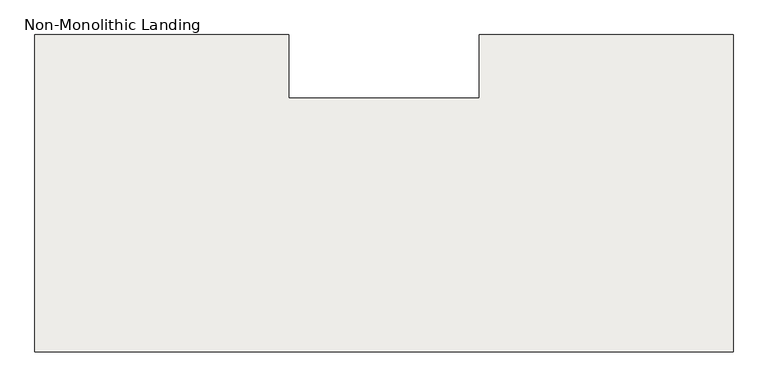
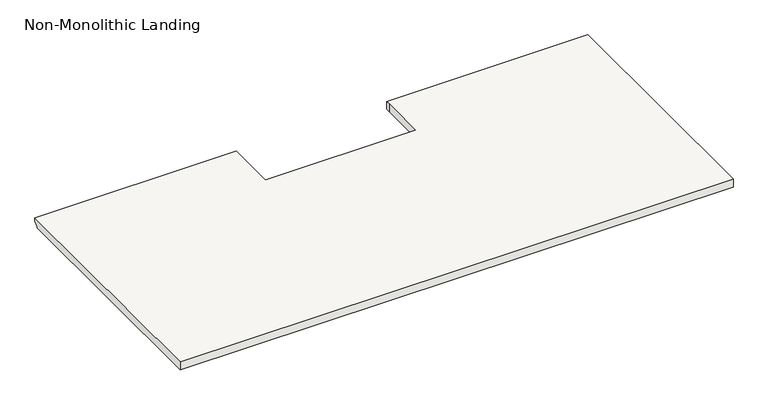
"""IFC4 building model written with IfcOpenShell, lengths in millimetres: slab geometry, Non-Monolithic Landing."""

from ifc_helpers import new_model, si_unit, origin, place, context, project, spatial, faceted_brep, source, transform, mapped, element, save


def non_monolithic_landing_28c1c1f5(model_context):
    return source(origin(), model_context, "Body", "Brep", [
        faceted_brep([(28280.5816981, 20987.1332157, 1741.7142857), (31633.3816981, 20987.1332157, 1741.7142857), (31633.3816981, 22485.7332157, 1741.7142857), (31633.3816981, 22511.1332157, 1741.7142857), (30414.1816981, 22511.1332157, 1741.7142857), (30414.1816981, 22485.7332157, 1741.7142857), (30414.1816981, 22206.3332157, 1741.7142857), (29499.7816981, 22206.3332157, 1741.7142857), (29499.7816981, 22511.1332157, 1741.7142857), (28280.5816981, 22511.1332157, 1741.7142857), (28280.5816981, 22485.7332157, 1690.9142857), (29499.7816981, 22485.7332157, 1690.9142857), (29499.7816981, 22206.3332157, 1690.9142857), (30414.1816981, 22206.3332157, 1690.9142857), (30414.1816981, 22485.7332157, 1690.9142857), (30414.1816981, 22511.1332157, 1690.9142857), (31633.3816981, 22511.1332157, 1690.9142857), (31633.3816981, 22485.7332157, 1690.9142857), (31633.3816981, 20987.1332157, 1690.9142857), (28280.5816981, 20987.1332157, 1690.9142857), (29499.7816981, 22485.7332157, 1697.2642857), (29499.7816981, 22511.1332157, 1722.6642857), (28280.5816981, 22511.1332157, 1722.6642857), (28280.5816981, 22485.7332157, 1697.2642857)], [[[0, 1, 2, 3, 4, 5, 6, 7, 8, 9]], [[10, 11, 12, 13, 14, 15, 16, 17, 18, 19]], [[8, 7, 12, 11, 20, 21]], [[0, 9, 22, 23, 10, 19]], [[3, 2, 17, 16]], [[5, 4, 15, 14]], [[6, 5, 14, 13]], [[22, 9, 8, 21]], [[23, 22, 21, 20]], [[11, 10, 23, 20]], [[7, 6, 13, 12]], [[1, 0, 19, 18]], [[2, 1, 18, 17]], [[4, 3, 16, 15]]]),
    ])


if __name__ == "__main__":
    model = new_model("IFC4")
    model_context = context("Model", 3, world=origin())
    ifc_project = project(units=[si_unit("LENGTHUNIT", "METRE", prefix="MILLI")], contexts=[model_context])
    site = spatial("IfcSite", under=ifc_project)
    building = spatial("IfcBuilding", under=site)
    placement = place(None, origin())
    non_monolithic_landing_shape = non_monolithic_landing_28c1c1f5(model_context)
    element("IfcSlab", 1, ObjectType="Non-Monolithic Landing", at=placement, inside=building, context=model_context, shape_type="MappedRepresentation", body=[
        mapped(non_monolithic_landing_shape, transform((0.0, 0.0, 0.0), x_axis=(1.0, 0.0, 0.0), y_axis=(0.0, 1.0, 0.0), z_axis=(0.0, 0.0, 1.0))),
    ])
    save(model, "model.ifc")
